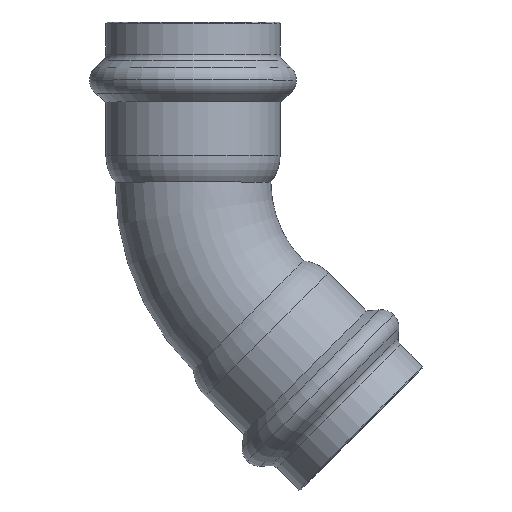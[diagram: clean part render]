
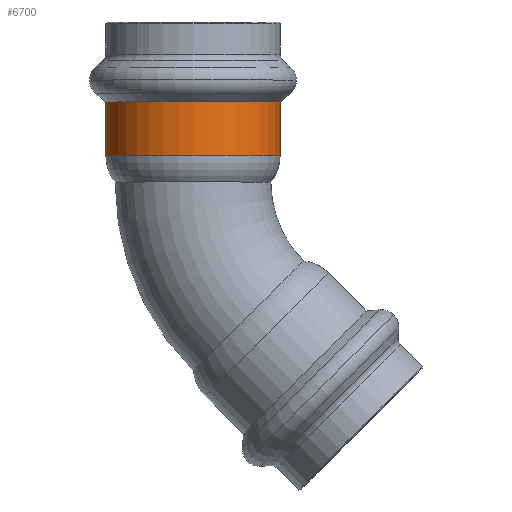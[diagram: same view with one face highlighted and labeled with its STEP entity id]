
A CAD part, top view. The second image highlights one B-rep face of the part: STEP entity #6700.
In plain terms, the highlighted cylindrical face has radius 15.65 mm (diameter 31.3 mm), a partial arc.
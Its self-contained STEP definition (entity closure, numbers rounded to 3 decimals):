
#1850=CARTESIAN_POINT('',(15.356,40.681,0.));
#1860=VERTEX_POINT('',#1850);
#1910=CARTESIAN_POINT('',(31.006,40.681,0.));
#1920=DIRECTION('',(0.,1.,0.));
#1930=DIRECTION('',(-1.,0.,0.));
#1940=AXIS2_PLACEMENT_3D('',#1910,#1920,#1930);
#1950=CIRCLE('',#1940,15.65);
#1960=CARTESIAN_POINT('',(46.656,40.681,0.));
#1970=VERTEX_POINT('',#1960);
#1980=EDGE_CURVE('',#1860,#1970,#1950,.T.);
#6390=CARTESIAN_POINT('',(31.006,45.537,0.));
#6400=DIRECTION('',(0.,1.,0.));
#6410=DIRECTION('',(1.,0.,0.));
#6420=AXIS2_PLACEMENT_3D('',#6390,#6400,#6410);
#6430=CYLINDRICAL_SURFACE('',#6420,15.65);
#6440=CARTESIAN_POINT('',(46.656,45.537,0.));
#6450=DIRECTION('',(0.,1.,0.));
#6460=VECTOR('',#6450,1.);
#6470=LINE('',#6440,#6460);
#6480=CARTESIAN_POINT('',(46.656,50.394,0.));
#6490=VERTEX_POINT('',#6480);
#6500=EDGE_CURVE('',#1970,#6490,#6470,.T.);
#6510=ORIENTED_EDGE('',*,*,#6500,.T.);
#6520=ORIENTED_EDGE('',*,*,#1980,.T.);
#6530=CARTESIAN_POINT('',(15.356,45.537,
0.));
#6540=DIRECTION('',(0.,1.,0.));
#6550=VECTOR('',#6540,1.);
#6560=LINE('',#6530,#6550);
#6570=CARTESIAN_POINT('',(15.356,50.394,
0.));
#6580=VERTEX_POINT('',#6570);
#6590=EDGE_CURVE('',#1860,#6580,#6560,.T.);
#6600=ORIENTED_EDGE('',*,*,#6590,.F.);
#6610=CARTESIAN_POINT('',(31.006,50.394,0.));
#6620=DIRECTION('',(0.,1.,0.));
#6630=DIRECTION('',(1.,0.,0.));
#6640=AXIS2_PLACEMENT_3D('',#6610,#6620,#6630);
#6650=CIRCLE('',#6640,15.65);
#6660=EDGE_CURVE('',#6580,#6490,#6650,.T.);
#6670=ORIENTED_EDGE('',*,*,#6660,.F.);
#6680=EDGE_LOOP('',(#6670,#6600,#6520,#6510));
#6690=FACE_OUTER_BOUND('',#6680,.T.);
#6700=ADVANCED_FACE('',(#6690),#6430,.T.);
